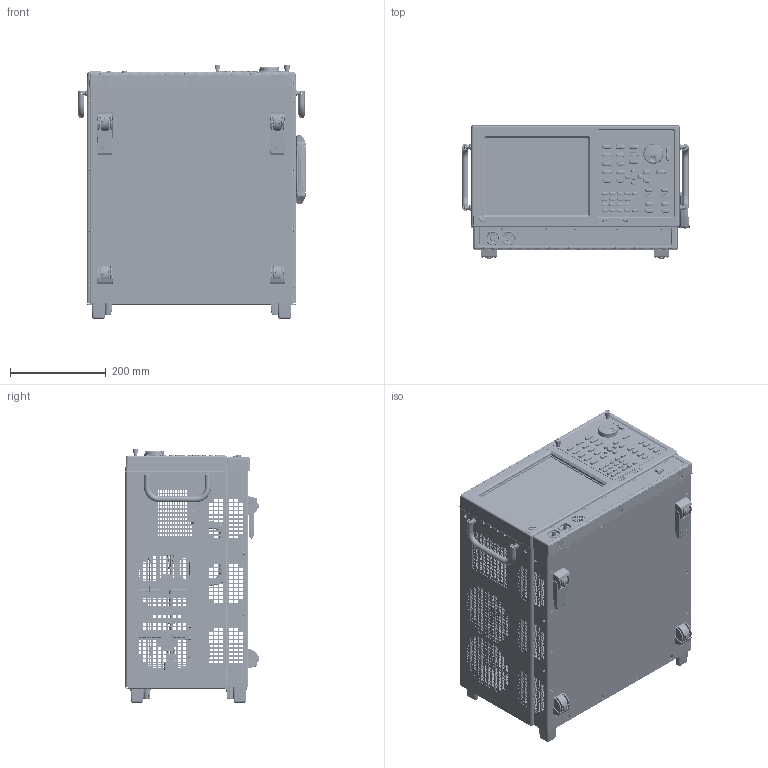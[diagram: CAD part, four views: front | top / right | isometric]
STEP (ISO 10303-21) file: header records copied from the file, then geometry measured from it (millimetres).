
FILE_DESCRIPTION((''),'2;1');
FILE_NAME('DESIGN_CHRISCO_AGB_ASM','2018-01-12T',('chrisco'),(''),'CREO PARAMETRIC BY PTC INC, 2016050','CREO PARAMETRIC BY PTC INC, 2016050','');
FILE_SCHEMA(('CONFIG_CONTROL_DESIGN'));
Products named in the file (238): CHASSIS_CENTRAL_R01_GLD; SOS-632-10; CLS-632-1; BSOS-632-30; RIVET_POP_AK42H_LIB_OLD; AC-632-1; BUSHING_SNAPFIT_SPF; RIVET_POP_PHX; CHASSIS_CENTRAL_R01_GLD_ASM; CHASSIS_IO_SHIELD_GLD; CHASSIS_IO_SHIELD_GLD_ASM; BRACE_CHAS-CNTRL_HONEY_BOT_SPF; SOS-8632-8; SOS-832-12; CLS-632-2; BRACE_CHAS-CNTRL_HONEY_BOT_SPF_ASM; BRACE_CHAS-CNTRL_HONEY_TOP_SPF; RIVET_POP-AD43H_PHB; BRACE_CHAS-CNTRL_HONEY_TOP_SPF_ASM; CHASSIS_LEFT_CARD_GUIDE_SPF; GUIDE_CARD_BIVAR_SDC_450_LAN; CHASSIS_LEFT_CARD_GUIDE_SPF_ASM; CHASSIS_LEFT_SPF; CHASSIS_LEFT_SPF_ASM; CHASSIS_RIGHT_SPF; SOS-832-4; CHASSIS_RIGHT_SPF_ASM; CHASSIS_RIGHT_CARD_GUIDE_SPF; CHASSIS_RIGHT_CARD_GUIDE_SPF_ASM; CONN_SMB_BULKHEAD_JACKTOJACK; CHASSIS_FRONT_GLD; CLSS-032-1; BSOS-8632-24; RAS-632-10-10; CHASSIS_FRONT_GLD_ASM; CHASSIS_REAR_SP2; CLSS-032-2; BRACE_REAR-FOOT_HPP; SO-8632-10; CLS-440-2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
Assembly tree (612 placements, depth 7):
  DESIGN_CHRISCO_AGB_ASM
    MASTER_ANGRY_BIRDS_AGB_ASM
      MODULE_CHASSIS_MAIN_PLUS_SP2_ASM
        MODULE_CHASSIS_MAIN_SP2_ASM
          CHASSIS_CENTRAL_R01_GLD_ASM
            CHASSIS_CENTRAL_R01_GLD
            SOS-632-10  x16
            CLS-632-1  x31
            BSOS-632-30  x5
            RIVET_POP_AK42H_LIB_OLD  x24
            AC-632-1  x11
            BUSHING_SNAPFIT_SPF
            RIVET_POP_PHX  x4
          CHASSIS_IO_SHIELD_GLD_ASM
            CHASSIS_IO_SHIELD_GLD
            RIVET_POP_PHX  x4
          RIVET_POP_AK42H_LIB_OLD  x4
          RIVET_POP_PHX  x4
          BRACE_CHAS-CNTRL_HONEY_BOT_SPF_ASM
            BRACE_CHAS-CNTRL_HONEY_BOT_SPF
            SOS-8632-8  x2
            SOS-832-12
            CLS-632-2  x2
            BUSHING_SNAPFIT_SPF
            RIVET_POP_AK42H_LIB_OLD  x15
          BRACE_CHAS-CNTRL_HONEY_TOP_SPF_ASM
            BRACE_CHAS-CNTRL_HONEY_TOP_SPF
            RIVET_POP-AD43H_PHB  x13
          CHASSIS_LEFT_CARD_GUIDE_SPF_ASM
            CHASSIS_LEFT_CARD_GUIDE_SPF
            GUIDE_CARD_BIVAR_SDC_450_LAN  x8
            CLS-632-1  x4
          CHASSIS_LEFT_SPF_ASM
            CHASSIS_LEFT_SPF
            CLS-632-2  x3
            RIVET_POP-AD43H_PHB  x3
          CHASSIS_RIGHT_SPF_ASM
            CHASSIS_RIGHT_SPF
            SOS-832-4  x2
            CLS-632-2  x4
            RIVET_POP_PHX  x2
            RIVET_POP_AK42H_LIB_OLD  x2
          CHASSIS_RIGHT_CARD_GUIDE_SPF_ASM
            CHASSIS_RIGHT_CARD_GUIDE_SPF
            GUIDE_CARD_BIVAR_SDC_450_LAN  x4
          CONN_SMB_BULKHEAD_JACKTOJACK  x4
          CHASSIS_FRONT_GLD_ASM
            CHASSIS_FRONT_GLD
            CLS-632-1  x6
            CLSS-032-1  x4
            BSOS-8632-24  x2
            RAS-632-10-10  x2
            BUSHING_SNAPFIT_SPF
            RIVET_POP_AK42H_LIB_OLD  x3
          CHASSIS_REAR_SP2_ASM
            CHASSIS_REAR_SP2
            CLS-632-2  x9
            CLSS-032-2  x4
            BRACE_REAR-FOOT_HPP  x4
            SO-8632-10  x4
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Bounding box: 474.13 x 278.26 x 528.9 mm (x, y, z)
Volume: 4966867.7 mm3; surface area: 6283262.2 mm2
Topology: 586 solids, 649 shells, 42324 faces, 110148 edges, 70949 vertices
Faces by surface type: plane 27277, cylinder 9505, cone 2421, bspline 1618, torus 1287, sphere 206, extrusion 10
Entity records: 1244238 total; most frequent: CARTESIAN_POINT 241335, ORIENTED_EDGE 166272, DIRECTION 156838, EDGE_CURVE 83232, PRESENTATION_STYLE_ASSIGNMENT 65791, STYLED_ITEM 65729, VECTOR 65640, LINE 65637
